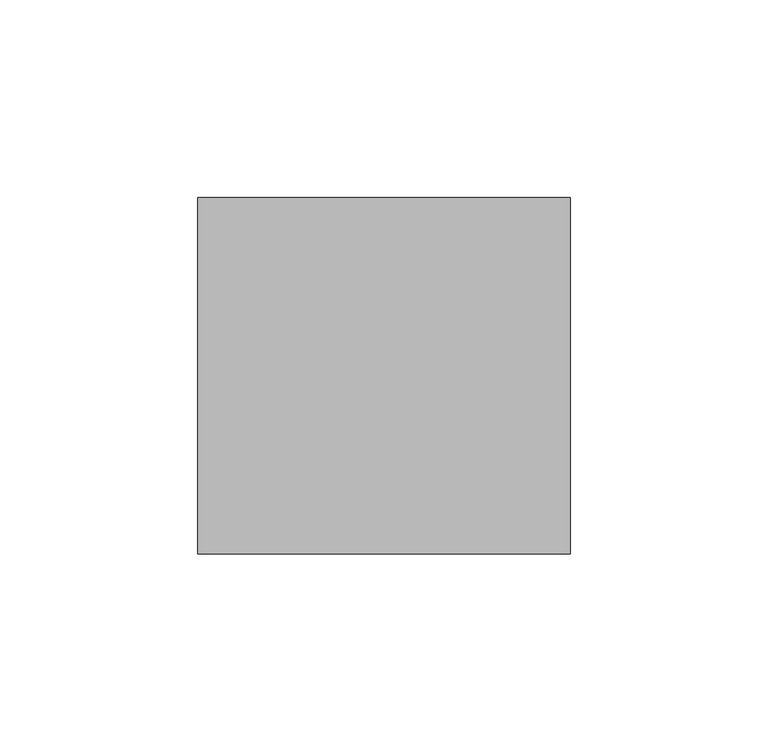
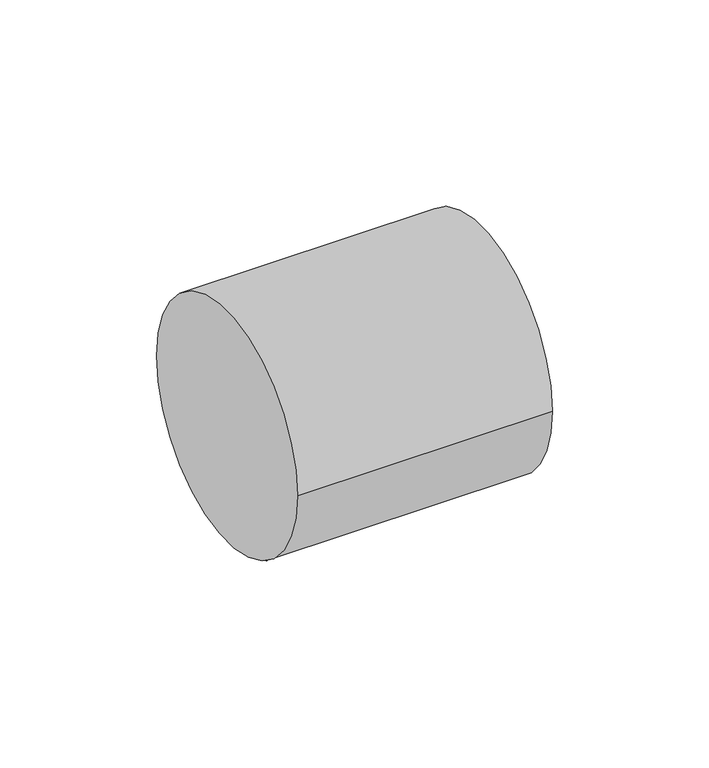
"""IFC4 building model written with IfcOpenShell, lengths in millimetres: pipe fitting geometry, 01051005 : Uniao Simples."""

from ifc_helpers import new_model, si_unit, point, frame, origin, origin_2d, place, context, project, spatial, circle_curve, trimmed, segment, composite_curve, outline, extrude, source, transform, mapped, element, save


def pipe_fitting_4f5375ba(model_context):
    return source(origin(), model_context, "Body", "SweptSolid", [
        extrude(outline(composite_curve([segment(trimmed(circle_curve(origin_2d(), 45.0), [point((-45.0, 0.0))], [point((45.0, 0.0))], False, "CARTESIAN"), True, "CONTINUOUS"), segment(trimmed(circle_curve(origin_2d(), 45.0), [point((45.0, 0.0))], [point((-45.0, 0.0))], False, "CARTESIAN"), True, "CONTINUOUS")], self_intersect=False)), frame((-47.0, 0.0, 0.0), z_axis=(1.0, 0.0, 0.0), x_axis=(0.0, 1.0, 0.0)), (0.0, 0.0, 1.0), 94.0),
    ])


if __name__ == "__main__":
    model = new_model("IFC4")
    model_context = context("Model", 3, world=origin())
    ifc_project = project(units=[si_unit("LENGTHUNIT", "METRE", prefix="MILLI")], contexts=[model_context])
    site = spatial("IfcSite", under=ifc_project)
    building = spatial("IfcBuilding", under=site)
    placement = place(None, origin())
    pipe_fitting_shape = pipe_fitting_4f5375ba(model_context)
    element("IfcPipeFitting", 1, ObjectType="01051005 : Uniao Simples", at=placement, inside=building, context=model_context, shape_type="MappedRepresentation", body=[
        mapped(pipe_fitting_shape, transform((0.0, 0.0, 0.0), x_axis=(1.0, 0.0, 0.0), y_axis=(0.0, 1.0, 0.0), z_axis=(0.0, 0.0, 1.0))),
    ])
    save(model, "model.ifc")
